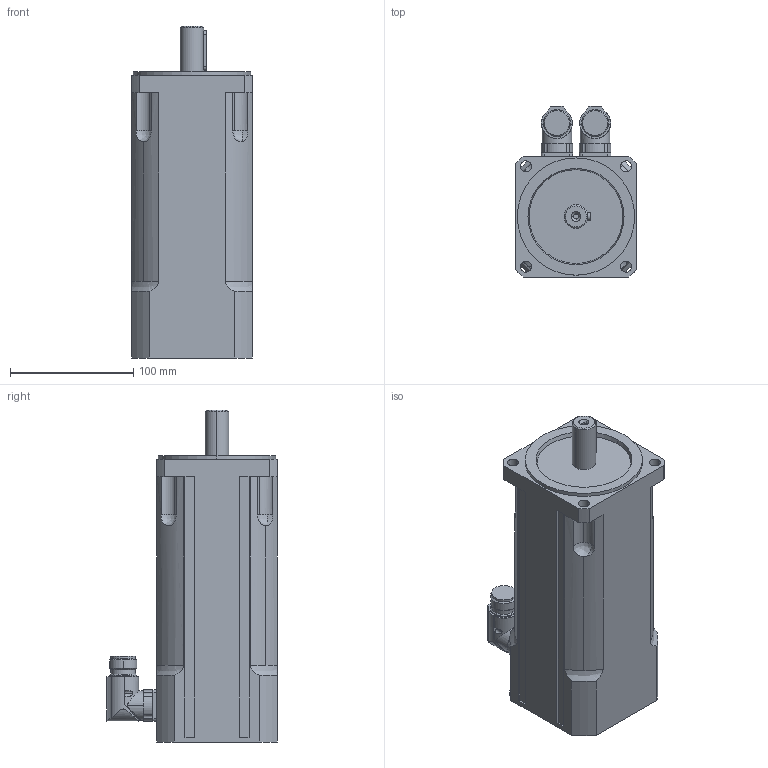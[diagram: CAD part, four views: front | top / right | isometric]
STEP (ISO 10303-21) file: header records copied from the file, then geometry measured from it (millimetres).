
FILE_DESCRIPTION(('STEP AP203'),'2;1');
FILE_NAME('MT4-0530_BX.stp','2006-08-28T20:44:29',(''),(''),'2005.2.102','THINKDESIGN','');
FILE_SCHEMA(('CONFIG_CONTROL_DESIGN'));
Length unit declared in the file: millimetre
Bounding box: 98 x 138.5 x 269 mm (x, y, z)
Volume: 2093018.7 mm3; surface area: 128891.9 mm2
Topology: 3 solids, 3 shells, 249 faces, 647 edges, 418 vertices
Faces by surface type: cylinder 112, plane 77, bspline 60
Entity records: 9416 total; most frequent: CARTESIAN_POINT 3278, ORIENTED_EDGE 1294, DIRECTION 1249, EDGE_CURVE 647, AXIS2_PLACEMENT_3D 483, VERTEX_POINT 418, CIRCLE 294, EDGE_LOOP 287
